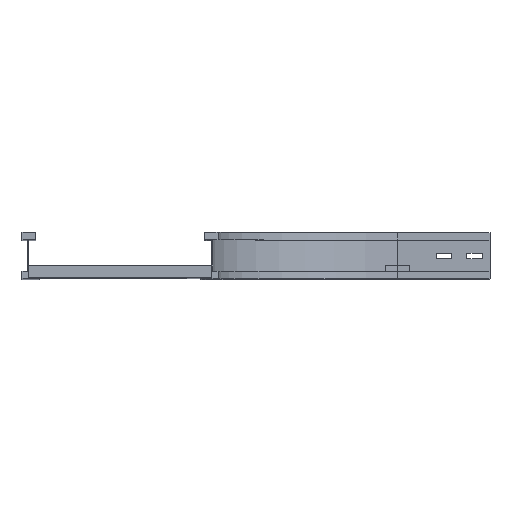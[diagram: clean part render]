
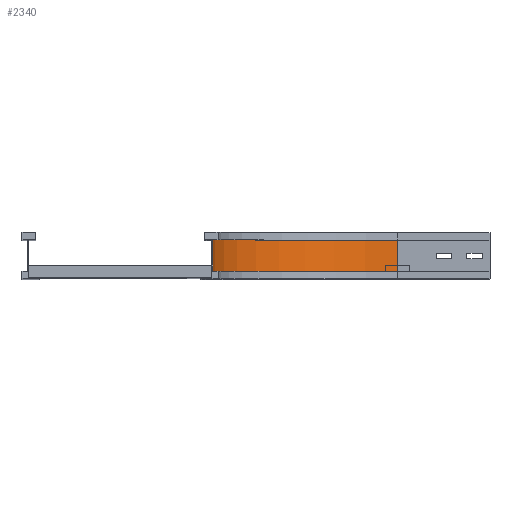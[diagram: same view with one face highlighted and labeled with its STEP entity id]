
A CAD part, top view. The second image highlights one B-rep face of the part: STEP entity #2340.
In plain terms, the highlighted cylindrical face has radius 300 mm (diameter 600 mm), a partial arc.
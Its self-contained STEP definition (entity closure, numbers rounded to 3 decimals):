
#181 = CYLINDRICAL_SURFACE ( 'NONE', #647, 300. ) ;
#186 = CARTESIAN_POINT ( 'NONE',  ( -9., 63., -150. ) ) ;
#198 = ORIENTED_EDGE ( 'NONE', *, *, #1648, .T. ) ;
#259 = DIRECTION ( 'NONE',  ( 0., -1., 0. ) ) ;
#381 = CARTESIAN_POINT ( 'NONE',  ( -9., 12., -150. ) ) ;
#401 = CARTESIAN_POINT ( 'NONE',  ( -9., 12., -150. ) ) ;
#548 = EDGE_CURVE ( 'NONE', #1084, #1073, #2058, .T. ) ;
#575 = EDGE_CURVE ( 'NONE', #1084, #725, #1597, .T. ) ;
#647 = AXIS2_PLACEMENT_3D ( 'NONE', #1667, #2654, #2406 ) ;
#670 = FACE_OUTER_BOUND ( 'NONE', #2192, .T. ) ;
#688 = AXIS2_PLACEMENT_3D ( 'NONE', #1554, #259, #2534 ) ;
#725 = VERTEX_POINT ( 'NONE', #1035 ) ;
#1035 = CARTESIAN_POINT ( 'NONE',  ( 291., 12., -450. ) ) ;
#1073 = VERTEX_POINT ( 'NONE', #186 ) ;
#1084 = VERTEX_POINT ( 'NONE', #401 ) ;
#1146 = LINE ( 'NONE', #1914, #2582 ) ;
#1180 = CARTESIAN_POINT ( 'NONE',  ( 291., 63., -450. ) ) ;
#1374 = ORIENTED_EDGE ( 'NONE', *, *, #2949, .F. ) ;
#1397 = DIRECTION ( 'NONE',  ( 0., 1., 0. ) ) ;
#1428 = AXIS2_PLACEMENT_3D ( 'NONE', #3062, #1576, #2356 ) ;
#1488 = VECTOR ( 'NONE', #3096, 1000. ) ;
#1554 = CARTESIAN_POINT ( 'NONE',  ( 291., 63., -150. ) ) ;
#1576 = DIRECTION ( 'NONE',  ( 0., -1., 0. ) ) ;
#1580 = CIRCLE ( 'NONE', #688, 300. ) ;
#1597 = CIRCLE ( 'NONE', #1428, 300. ) ;
#1648 = EDGE_CURVE ( 'NONE', #725, #3118, #1146, .T. ) ;
#1667 = CARTESIAN_POINT ( 'NONE',  ( 291., 0., -150. ) ) ;
#1747 = ORIENTED_EDGE ( 'NONE', *, *, #575, .T. ) ;
#1914 = CARTESIAN_POINT ( 'NONE',  ( 291., 12., -450. ) ) ;
#2058 = LINE ( 'NONE', #381, #1488 ) ;
#2192 = EDGE_LOOP ( 'NONE', ( #1374, #2247, #1747, #198 ) ) ;
#2247 = ORIENTED_EDGE ( 'NONE', *, *, #548, .F. ) ;
#2340 = ADVANCED_FACE ( 'NONE', ( #670 ), #181, .F. ) ;
#2356 = DIRECTION ( 'NONE',  ( -1., 0., 0. ) ) ;
#2406 = DIRECTION ( 'NONE',  ( 0., 0., -1. ) ) ;
#2534 = DIRECTION ( 'NONE',  ( -1., 0., 0. ) ) ;
#2582 = VECTOR ( 'NONE', #1397, 1000. ) ;
#2654 = DIRECTION ( 'NONE',  ( 0., -1., 0. ) ) ;
#2949 = EDGE_CURVE ( 'NONE', #1073, #3118, #1580, .T. ) ;
#3062 = CARTESIAN_POINT ( 'NONE',  ( 291., 12., -150. ) ) ;
#3096 = DIRECTION ( 'NONE',  ( 0., 1., 0. ) ) ;
#3118 = VERTEX_POINT ( 'NONE', #1180 ) ;
